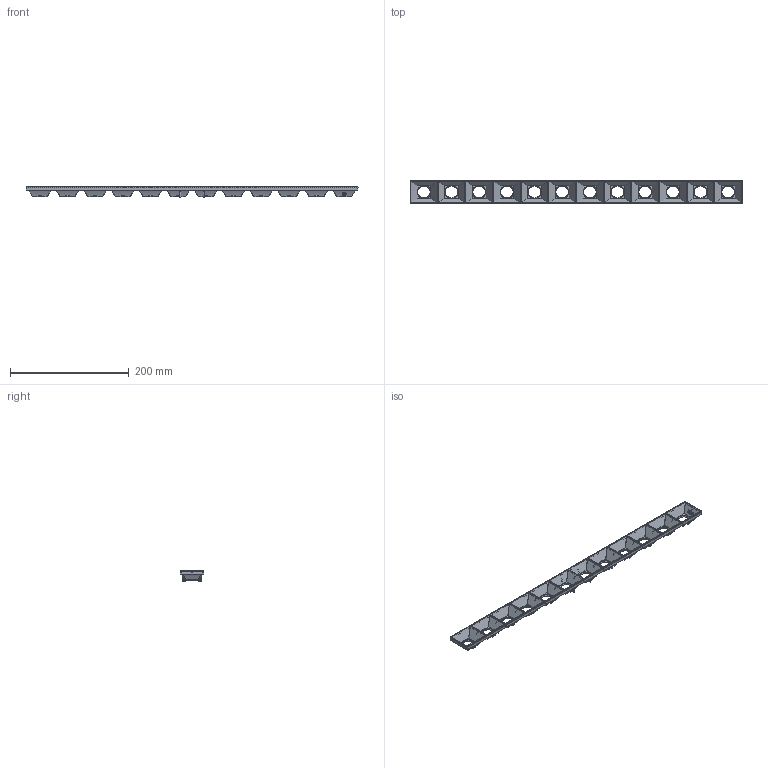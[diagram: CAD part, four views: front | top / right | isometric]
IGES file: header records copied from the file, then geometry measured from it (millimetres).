
Start section: C
Global section: file name: 023-B03-03.igs; native system: By Siemens PLM Incorporated; preprocessor: XPlus GENERIC/IGES 23.0.61; author: Author; organization: Title; date: 20250508.160857; units: millimetre
Bounding box: 560 x 40 x 19.9 mm (x, y, z)
Volume: 49723.7 mm3; surface area: 83404.3 mm2
Topology: 1 solids, 1 shells, 1195 faces, 3050 edges, 1854 vertices
Faces by surface type: bspline 1195
